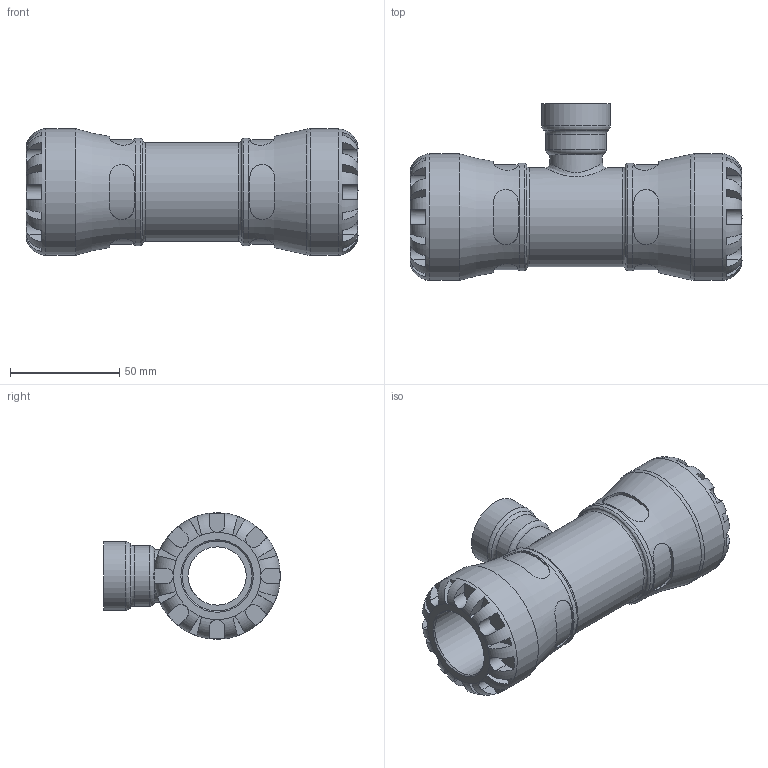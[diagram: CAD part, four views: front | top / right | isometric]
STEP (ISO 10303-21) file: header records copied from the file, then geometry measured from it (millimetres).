
FILE_DESCRIPTION(/* description */ ('PLASSON TEE WITH THREADED FEMALE OFFTAKE 32X3/4" SERIES 1'),/* implementation_level */ '2;1');
FILE_NAME(/* name */ 'C:\Dropbox\KIMPROJECTS-Inventor\99-16-3568-Processing\1014\101400032007_191400032007.ipt.stp',/* time_stamp */ '2017-01-30T09:06:23+02:00',/* author */ ('KIM'),/* organization */ (''),/* preprocessor_version */ 'ST-DEVELOPER v15.6',/* originating_system */ 'Autodesk Inventor 2015',/* authorisation */ '');
FILE_SCHEMA (('AUTOMOTIVE_DESIGN { 1 0 10303 214 3 1 1 }'));
Length unit declared in the file: millimetre
Products named in the file (1): 101400032007_191400032007
Bounding box: 152 x 81 x 58 mm (x, y, z)
Volume: 200618.3 mm3; surface area: 51159.4 mm2
Topology: 1 solids, 1 shells, 202 faces, 510 edges, 319 vertices
Faces by surface type: plane 118, cylinder 69, torus 12, cone 2, bspline 1
Full cylindrical faces by diameter (mm): 20.499 x1, 24.117 x2, 26.667 x1, 27.735 x1, 31.352 x1, 32 x2, 45.24 x1, 49.3 x2, 58 x2
Entity records: 7790 total; most frequent: CARTESIAN_POINT 3046, ORIENTED_EDGE 932, DIRECTION 914, EDGE_CURVE 466, AXIS2_PLACEMENT_3D 377, VERTEX_POINT 305, EDGE_LOOP 245, STYLED_ITEM 203
